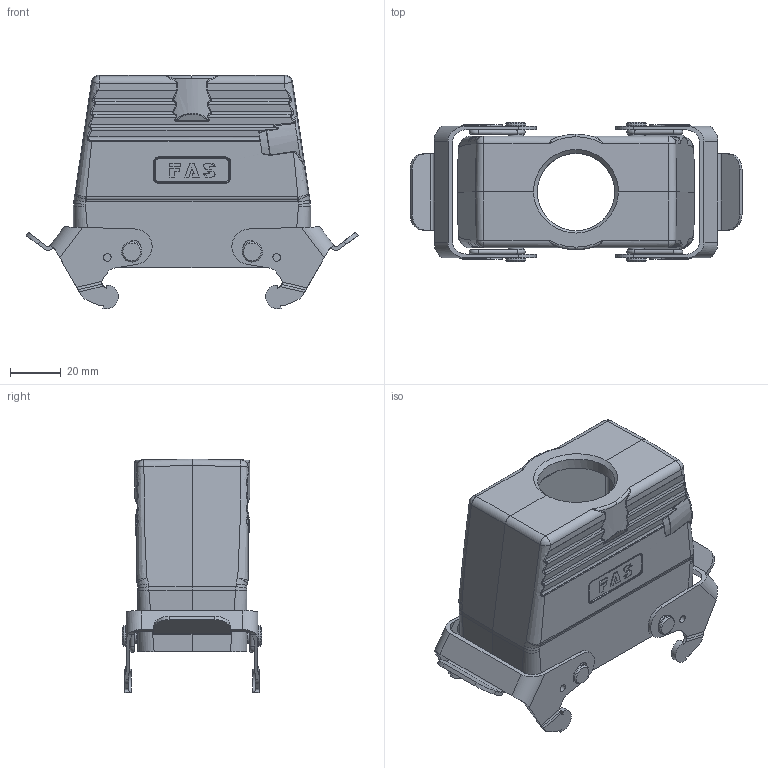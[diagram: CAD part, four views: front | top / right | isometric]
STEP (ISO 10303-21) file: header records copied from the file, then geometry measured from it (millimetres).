
FILE_DESCRIPTION (( 'STEP AP203' ), '1' );
FILE_NAME ('H16B-TBFH-M32.STEP', '2023-06-09T01:14:21', ( '' ), ( '' ), 'SwSTEP 2.0', 'SolidWorks 2016', '' );
FILE_SCHEMA (( 'CONFIG_CONTROL_DESIGN' ));
Products named in the file (1): H16B-TBFH-M32
Bounding box: 130.9 x 55 x 92.17 mm (x, y, z)
Volume: 97780.5 mm3; surface area: 54565.7 mm2
Topology: 11 solids, 11 shells, 840 faces, 2138 edges, 1358 vertices
Faces by surface type: plane 287, cylinder 269, bspline 198, torus 38, cone 36, sphere 12
Full cylindrical faces by diameter (mm): 1.8 x16, 3 x4, 3.3 x4, 4 x8, 6 x4, 8 x4, 30.5 x1
Entity records: 38691 total; most frequent: CARTESIAN_POINT 21559, ORIENTED_EDGE 4028, DIRECTION 2645, EDGE_CURVE 2014, VERTEX_POINT 1321, EDGE_LOOP 975, AXIS2_PLACEMENT_3D 947, FACE_OUTER_BOUND 897
